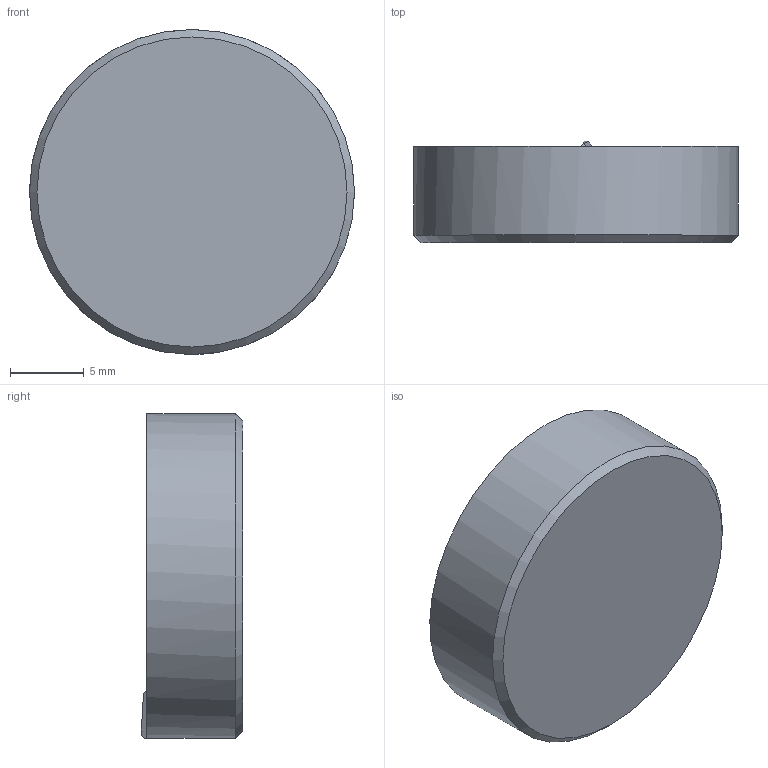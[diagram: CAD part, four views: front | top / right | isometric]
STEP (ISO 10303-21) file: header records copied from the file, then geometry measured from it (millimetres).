
FILE_DESCRIPTION( ( 'STEP AP203' ), '1' );
FILE_NAME( 'C:/Temp/Ganter_Step_05_03_2020/data/3_2/gn187_4/gn187_4_st/Serrated locking plate GN 187.4-22-48-E-ST.stp', '2020-03-13T05:25:49', ( 'License CC BY-ND 4.0' ), ( 'CADENAS' ), ' ', 'PARTsolutions', ' ' );
FILE_SCHEMA( ( 'CONFIG_CONTROL_DESIGN' ) );
Length unit declared in the file: millimetre
Products named in the file (1): _Serrated locking plate GN 187.4-22-48-E-ST
Bounding box: 22 x 6.89 x 22 mm (x, y, z)
Volume: 2272.6 mm3; surface area: 1241.9 mm2
Topology: 1 solids, 1 shells, 15 faces, 38 edges, 25 vertices
Faces by surface type: plane 7, cone 4, cylinder 4
Full cylindrical faces by diameter (mm): 15.5 x1, 22 x1
Entity records: 554 total; most frequent: CARTESIAN_POINT 174, DIRECTION 72, ORIENTED_EDGE 66, AXIS2_PLACEMENT_3D 33, EDGE_CURVE 33, VERTEX_POINT 23, EDGE_LOOP 18, FACE_OUTER_BOUND 17
